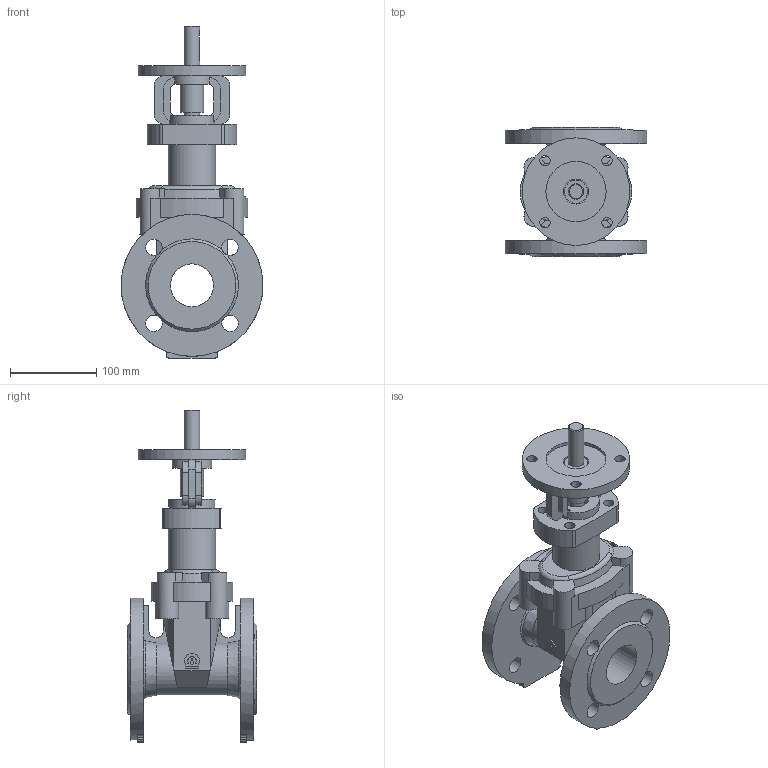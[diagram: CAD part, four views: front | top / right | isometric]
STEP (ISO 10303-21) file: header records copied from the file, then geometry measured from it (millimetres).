
FILE_DESCRIPTION(('STEP AP203'), '1');
FILE_NAME('Çàäâèæêà 47GV.M DN50 ñ ïåðåõîäîì ïîä ISO ôëàíåö', '', ('UNSPECIFIED'), ('UNSPECIFIED'), 'ASCON STEP Converter 1.6', 'ASCON Math Kernel', '');
FILE_SCHEMA(('CONFIG_CONTROL_DESIGN'));
Length unit declared in the file: millimetre
Bounding box: 165 x 150 x 386 mm (x, y, z)
Volume: 1906708.3 mm3; surface area: 273924.3 mm2
Topology: 1 solids, 1 shells, 240 faces, 680 edges, 453 vertices
Faces by surface type: plane 120, cylinder 103, cone 9, torus 8
Full cylindrical faces by diameter (mm): 12 x8, 18 x2, 19 x8, 27 x1, 29 x2, 50 x1, 52 x1, 55 x1, 70 x1, 125 x1, 165 x2
Entity records: 11071 total; most frequent: CARTESIAN_POINT 2807, DIRECTION 1328, ORIENTED_EDGE 1298, EDGE_CURVE 649, AXIS2_PLACEMENT_3D 504, VERTEX_POINT 453, EDGE_LOOP 320, LINE 320
